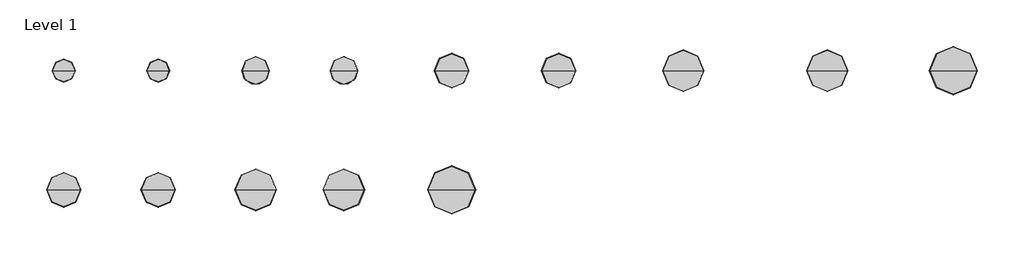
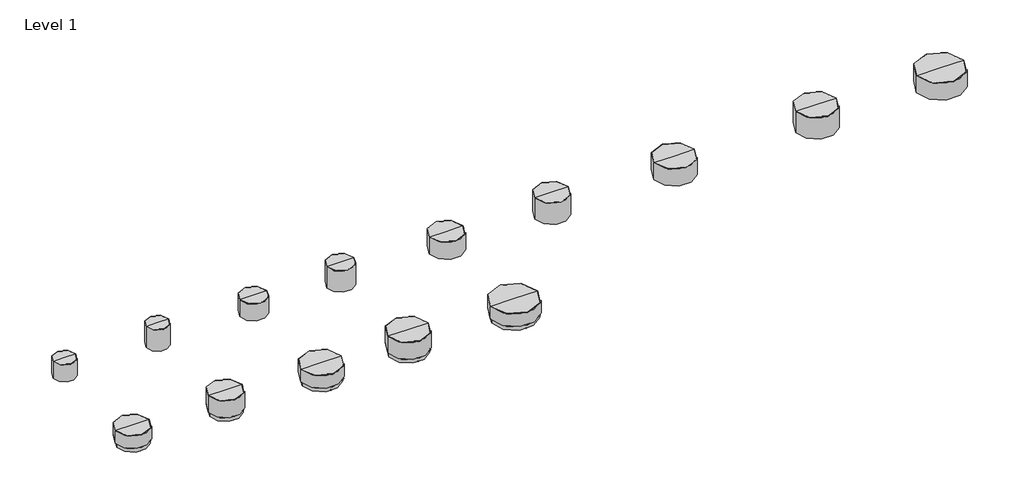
# One storey: 14 furniture elements.
"""IFC4 building model written with IfcOpenShell, lengths in millimetres."""

from ifc_helpers import new_model, si_unit, origin, place, context, project, spatial, transform, mapped, element, save
from components import furniture_4c804765, furniture_35c29f31, furniture_af896ca5, furniture_8fdf35c3, furniture_28683404, furniture_3628cd61, furniture_476e85af, furniture_11c77112, furniture_49b2f2a2, furniture_91fcf8c9, furniture_b041ff5f, furniture_cdabcaa1, furniture_cb0847da, furniture_d53b618d

model = new_model("IFC4")

# Units and contexts
model_context = context("Model", 3, world=origin())
ifc_project = project(units=[si_unit("LENGTHUNIT", "METRE", prefix="MILLI")], contexts=[model_context])

# Site, building, storey
site = spatial("IfcSite", under=ifc_project)
building = spatial("IfcBuilding", under=site)
storey = spatial("IfcBuildingStorey", under=building, Name="Level 1", Elevation=0.0)

# Furniture
placement = place(None, origin())
furniture_shape = furniture_4c804765(model_context)
element("IfcFurniture", 1, ObjectType="StanceHC-Drum_Table_Upholstered : DRT-42D-16-H", at=placement, inside=storey, context=model_context, shape_type="MappedRepresentation", body=[
    mapped(furniture_shape, transform((23137.406951, 3324.6518942, 0.0), x_axis=(1.0, 0.0, 0.0), y_axis=(0.0, 1.0, 0.0), z_axis=(0.0, 0.0, 1.0))),
])
furniture_2_shape = furniture_35c29f31(model_context)
element("IfcFurniture", 2, ObjectType="StanceHC-Drum_Table_Upholstered : DRT-36D-20-H", at=placement, inside=storey, context=model_context, shape_type="MappedRepresentation", body=[
    mapped(furniture_2_shape, transform((20337.8612673, 3324.6518942, 0.0), x_axis=(1.0, 0.0, 0.0), y_axis=(0.0, 1.0, 0.0), z_axis=(0.0, 0.0, 1.0))),
])
furniture_3_shape = furniture_af896ca5(model_context)
element("IfcFurniture", 3, ObjectType="StanceHC-Drum_Table_Upholstered : DRT-36D-16-H", at=placement, inside=storey, context=model_context, shape_type="MappedRepresentation", body=[
    mapped(furniture_3_shape, transform((17140.9607123, 3324.6518942, 0.0), x_axis=(1.0, 0.0, 0.0), y_axis=(0.0, 1.0, 0.0), z_axis=(0.0, 0.0, 1.0))),
])
furniture_4_shape = furniture_8fdf35c3(model_context)
element("IfcFurniture", 4, ObjectType="StanceHC-Drum_Table_Upholstered : DRT-30D-20-H", at=placement, inside=storey, context=model_context, shape_type="MappedRepresentation", body=[
    mapped(furniture_4_shape, transform((14377.5381988, 3324.6518942, 0.0), x_axis=(1.0, 0.0, 0.0), y_axis=(0.0, 1.0, 0.0), z_axis=(0.0, 0.0, 1.0))),
])
furniture_5_shape = furniture_28683404(model_context)
element("IfcFurniture", 5, ObjectType="StanceHC-Drum_Table_Upholstered : DRT-30D-16-H", at=placement, inside=storey, context=model_context, shape_type="MappedRepresentation", body=[
    mapped(furniture_5_shape, transform((12003.1351659, 3324.6518942, 0.0), x_axis=(1.0, 0.0, 0.0), y_axis=(0.0, 1.0, 0.0), z_axis=(0.0, 0.0, 1.0))),
])
furniture_6_shape = furniture_3628cd61(model_context)
element("IfcFurniture", 6, ObjectType="StanceHC-Drum_Table_Upholstered : DRT-24D-20-H", at=placement, inside=storey, context=model_context, shape_type="MappedRepresentation", body=[
    mapped(furniture_6_shape, transform((9614.8959038, 3324.6518942, 0.0), x_axis=(1.0, 0.0, 0.0), y_axis=(0.0, 1.0, 0.0), z_axis=(0.0, 0.0, 1.0))),
])
furniture_7_shape = furniture_476e85af(model_context)
element("IfcFurniture", 7, ObjectType="StanceHC-Drum_Table_Upholstered : DRT-24D-16-H", at=placement, inside=storey, context=model_context, shape_type="MappedRepresentation", body=[
    mapped(furniture_7_shape, transform((7655.0783277, 3324.6518942, 0.0), x_axis=(1.0, 0.0, 0.0), y_axis=(0.0, 1.0, 0.0), z_axis=(0.0, 0.0, 1.0))),
])
furniture_8_shape = furniture_11c77112(model_context)
element("IfcFurniture", 8, ObjectType="StanceHC-Drum_Table_Upholstered : DRT-20D-20-H", at=placement, inside=storey, context=model_context, shape_type="MappedRepresentation", body=[
    mapped(furniture_8_shape, transform((5493.344114, 3324.6518942, 0.0), x_axis=(1.0, 0.0, 0.0), y_axis=(0.0, 1.0, 0.0), z_axis=(0.0, 0.0, 1.0))),
])
furniture_9_shape = furniture_49b2f2a2(model_context)
element("IfcFurniture", 9, ObjectType="StanceHC-Drum_Table_Upholstered : DRT-20D-16-H", at=placement, inside=storey, context=model_context, shape_type="MappedRepresentation", body=[
    mapped(furniture_9_shape, transform((3397.7152573, 3324.6518942, 0.0), x_axis=(1.0, 0.0, 0.0), y_axis=(0.0, 1.0, 0.0), z_axis=(0.0, 0.0, 1.0))),
])
furniture_10_shape = furniture_91fcf8c9(model_context)
element("IfcFurniture", 10, ObjectType="StanceHC-Drum_Table_Upholstered-Plinth_Base : DRT-30D-16-H", at=placement, inside=storey, context=model_context, shape_type="MappedRepresentation", body=[
    mapped(furniture_10_shape, transform((3397.7152573, 676.2492892, 0.0), x_axis=(1.0, 0.0, 0.0), y_axis=(0.0, 1.0, 0.0), z_axis=(0.0, 0.0, 1.0))),
])
furniture_11_shape = furniture_b041ff5f(model_context)
element("IfcFurniture", 11, ObjectType="StanceHC-Drum_Table_Upholstered-Plinth_Base : DRT-30D-20-H", at=placement, inside=storey, context=model_context, shape_type="MappedRepresentation", body=[
    mapped(furniture_11_shape, transform((5493.344114, 676.2492892, 0.0), x_axis=(1.0, 0.0, 0.0), y_axis=(0.0, 1.0, 0.0), z_axis=(0.0, 0.0, 1.0))),
])
furniture_12_shape = furniture_cdabcaa1(model_context)
element("IfcFurniture", 12, ObjectType="StanceHC-Drum_Table_Upholstered-Plinth_Base : DRT-36D-16-H", at=placement, inside=storey, context=model_context, shape_type="MappedRepresentation", body=[
    mapped(furniture_12_shape, transform((7655.0783277, 676.2492892, 0.0), x_axis=(1.0, 0.0, 0.0), y_axis=(0.0, 1.0, 0.0), z_axis=(0.0, 0.0, 1.0))),
])
furniture_13_shape = furniture_cb0847da(model_context)
element("IfcFurniture", 13, ObjectType="StanceHC-Drum_Table_Upholstered-Plinth_Base : DRT-36D-20-H", at=placement, inside=storey, context=model_context, shape_type="MappedRepresentation", body=[
    mapped(furniture_13_shape, transform((9614.8959038, 676.2492892, 0.0), x_axis=(1.0, 0.0, 0.0), y_axis=(0.0, 1.0, 0.0), z_axis=(0.0, 0.0, 1.0))),
])
furniture_14_shape = furniture_d53b618d(model_context)
element("IfcFurniture", 14, ObjectType="StanceHC-Drum_Table_Upholstered-Plinth_Base : DRT-42D-16-H", at=placement, inside=storey, context=model_context, shape_type="MappedRepresentation", body=[
    mapped(furniture_14_shape, transform((12003.1351659, 676.2492892, 0.0), x_axis=(1.0, 0.0, 0.0), y_axis=(0.0, 1.0, 0.0), z_axis=(0.0, 0.0, 1.0))),
])

save(model, "model.ifc")
